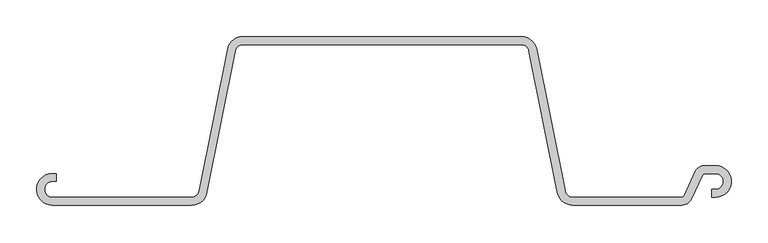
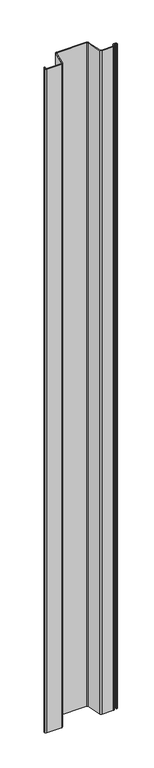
"""IFC4 building model written with IfcOpenShell, lengths in millimetres: proxy geometry, 鋼矢板10H型 : 鋼矢板10H型."""

from ifc_helpers import new_model, si_unit, point, frame, frame_2d, origin, place, context, project, spatial, polyline, circle_curve, trimmed, segment, composite_curve, outline, extrude, source, transform, mapped, element, save


def generic_models_d380ba2e(model_context):
    return source(origin(), model_context, "Body", "SweptSolid", [
        extrude(outline(composite_curve([segment(trimmed(circle_curve(frame_2d((409.1972607, -101.1142857)), 13.8857143), [point((421.7819917, -106.9826421))], [point((409.1972607, -115.0))], False, "CARTESIAN"), True, "CONTINUOUS"), segment(polyline([(409.1972607, -115.0), (260.2008232, -115.0)]), True, "CONTINUOUS"), segment(trimmed(circle_curve(frame_2d((260.2008232, -93.4)), 21.6), [point((260.2008232, -115.0))], [point((239.0202806, -97.6361085))], False, "CARTESIAN"), True, "CONTINUOUS"), segment(polyline([(239.0202806, -97.6361085), (200.3894481, 95.5180543)]), True, "CONTINUOUS"), segment(trimmed(circle_curve(frame_2d((189.7991768, 93.4)), 10.8), [point((200.3894481, 95.5180543))], [point((189.7991768, 104.2))], True, "CARTESIAN"), True, "CONTINUOUS"), segment(polyline([(189.7991768, 104.2), (-189.7991768, 104.2)]), True, "CONTINUOUS"), segment(trimmed(circle_curve(frame_2d((-189.7991768, 93.4)), 10.8), [point((-189.7991768, 104.2))], [point((-200.3894481, 95.5180543))], True, "CARTESIAN"), True, "CONTINUOUS"), segment(polyline([(-200.3894481, 95.5180543), (-239.0202806, -97.6361085)]), True, "CONTINUOUS"), segment(trimmed(circle_curve(frame_2d((-260.2008232, -93.4)), 21.6), [point((-239.0202806, -97.6361085))], [point((-260.2008232, -115.0))], False, "CARTESIAN"), True, "CONTINUOUS"), segment(polyline([(-260.2008232, -115.0), (-450.0, -115.0)]), True, "CONTINUOUS"), segment(trimmed(circle_curve(frame_2d((-450.0, -93.4)), 21.6), [point((-450.0, -115.0))], [point((-450.0, -71.8))], False, "CARTESIAN"), True, "CONTINUOUS"), segment(polyline([(-450.0, -71.8), (-445.0, -71.8), (-445.0, -82.6), (-450.0, -82.6)]), True, "CONTINUOUS"), segment(trimmed(circle_curve(frame_2d((-450.0, -93.4)), 10.8), [point((-450.0, -82.6))], [point((-450.0, -104.2))], True, "CARTESIAN"), True, "CONTINUOUS"), segment(polyline([(-450.0, -104.2), (-260.2008232, -104.2)]), True, "CONTINUOUS"), segment(trimmed(circle_curve(frame_2d((-260.2008232, -93.4)), 10.8), [point((-260.2008232, -104.2))], [point((-249.6105519, -95.5180543))], True, "CARTESIAN"), True, "CONTINUOUS"), segment(polyline([(-249.6105519, -95.5180543), (-210.9797194, 97.6361085)]), True, "CONTINUOUS"), segment(trimmed(circle_curve(frame_2d((-189.7991768, 93.4)), 21.6), [point((-210.9797194, 97.6361085))], [point((-189.7991768, 115.0))], False, "CARTESIAN"), True, "CONTINUOUS"), segment(polyline([(-189.7991768, 115.0), (189.7991768, 115.0)]), True, "CONTINUOUS"), segment(trimmed(circle_curve(frame_2d((189.7991768, 93.4)), 21.6), [point((189.7991768, 115.0))], [point((210.9797194, 97.6361085))], False, "CARTESIAN"), True, "CONTINUOUS"), segment(polyline([(210.9797194, 97.6361085), (249.6105519, -95.5180543)]), True, "CONTINUOUS"), segment(trimmed(circle_curve(frame_2d((260.2008232, -93.4)), 10.8), [point((249.6105519, -95.5180543))], [point((260.2008232, -104.2))], True, "CARTESIAN"), True, "CONTINUOUS"), segment(polyline([(260.2008232, -104.2), (409.1972607, -104.2)]), True, "CONTINUOUS"), segment(trimmed(circle_curve(frame_2d((409.1972607, -101.1142857)), 3.0857143), [point((409.1972607, -104.2))], [point((411.9938676, -102.4183649))], True, "CARTESIAN"), True, "CONTINUOUS"), segment(polyline([(411.9938676, -102.4183649), (427.569013, -69.0173579)]), True, "CONTINUOUS"), segment(trimmed(circle_curve(frame_2d((440.153744, -74.8857143)), 13.8857143), [point((427.569013, -69.0173579))], [point((440.153744, -61.0))], False, "CARTESIAN"), True, "CONTINUOUS"), segment(polyline([(440.153744, -61.0), (455.0, -61.0)]), True, "CONTINUOUS"), segment(trimmed(circle_curve(frame_2d((455.0, -82.6)), 21.6), [point((455.0, -61.0))], [point((455.0, -104.2))], False, "CARTESIAN"), True, "CONTINUOUS"), segment(polyline([(455.0, -104.2), (450.0, -104.2), (450.0, -93.4), (455.0, -93.4)]), True, "CONTINUOUS"), segment(trimmed(circle_curve(frame_2d((455.0, -82.6)), 10.8), [point((455.0, -93.4))], [point((455.0, -71.8))], True, "CARTESIAN"), True, "CONTINUOUS"), segment(polyline([(455.0, -71.8), (440.153744, -71.8)]), True, "CONTINUOUS"), segment(trimmed(circle_curve(frame_2d((440.153744, -74.8857143)), 3.0857143), [point((440.153744, -71.8))], [point((437.3571371, -73.5816351))], True, "CARTESIAN"), True, "CONTINUOUS"), segment(polyline([(437.3571371, -73.5816351), (421.7819917, -106.9826421)]), True, "CONTINUOUS")], self_intersect=False)), frame((0.0, 0.0, -9000.0), z_axis=(0.0, 0.0, 1.0), x_axis=(1.0, 0.0, 0.0)), (0.0, 0.0, 1.0), 9000.0),
    ])


if __name__ == "__main__":
    model = new_model("IFC4")
    model_context = context("Model", 3, world=origin())
    ifc_project = project(units=[si_unit("LENGTHUNIT", "METRE", prefix="MILLI")], contexts=[model_context])
    site = spatial("IfcSite", under=ifc_project)
    building = spatial("IfcBuilding", under=site)
    placement = place(None, origin())
    generic_models_shape = generic_models_d380ba2e(model_context)
    element("IfcBuildingElementProxy", 1, Name="鋼矢板10H型 : 鋼矢板10H型", ObjectType="鋼矢板10H型 : 鋼矢板10H型", at=placement, inside=building, context=model_context, shape_type="MappedRepresentation", body=[
        mapped(generic_models_shape, transform((0.0, 0.0, 0.0), x_axis=(1.0, 0.0, 0.0), y_axis=(0.0, 1.0, 0.0), z_axis=(0.0, 0.0, 1.0))),
    ])
    save(model, "model.ifc")
